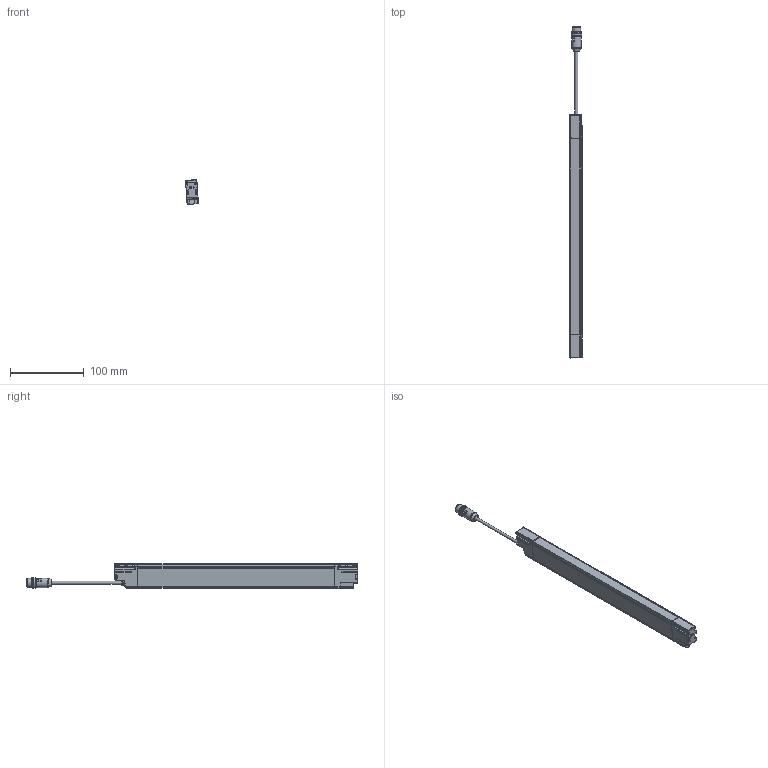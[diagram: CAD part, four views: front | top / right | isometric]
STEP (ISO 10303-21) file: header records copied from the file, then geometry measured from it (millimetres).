
FILE_DESCRIPTION(/* description */ (''),/* implementation_level */ '2;1');
FILE_NAME(/* name */ 'DSD-0626.stp',/* time_stamp */ '2015-02-23T17:03:23+01:00',/* author */ (''),/* organization */ (''),/* preprocessor_version */ 'ST-DEVELOPER v11',/* originating_system */ 'SIEMENS PLM Software NX 7.5',/* authorisation */ '');
FILE_SCHEMA (('AUTOMOTIVE_DESIGN { 1 0 10303 214 1 1 1 1 }'));
Length unit declared in the file: millimetre
Products named in the file (1): AP008102_00
Bounding box: 17.36 x 450.24 x 33.46 mm (x, y, z)
Surface area: 42877.8 mm2 (no closed solid volume)
Topology: 0 solids, 47 shells, 1132 faces, 3842 edges, 2611 vertices
Faces by surface type: cylinder 405, plane 347, bspline 154, torus 116, sphere 72, cone 38
Full cylindrical faces by diameter (mm): 1 x5, 1.2 x2, 2.6 x6, 4 x1, 8.3 x1, 9.4 x1, 10.4 x1, 12 x1, 13 x1, 13.5 x1, 14.5 x2
Entity records: 50838 total; most frequent: CARTESIAN_POINT 18598, DIRECTION 6877, ORIENTED_EDGE 6004, EDGE_CURVE 3702, AXIS2_PLACEMENT_3D 2599, VERTEX_POINT 2569, LINE 1679, VECTOR 1679
